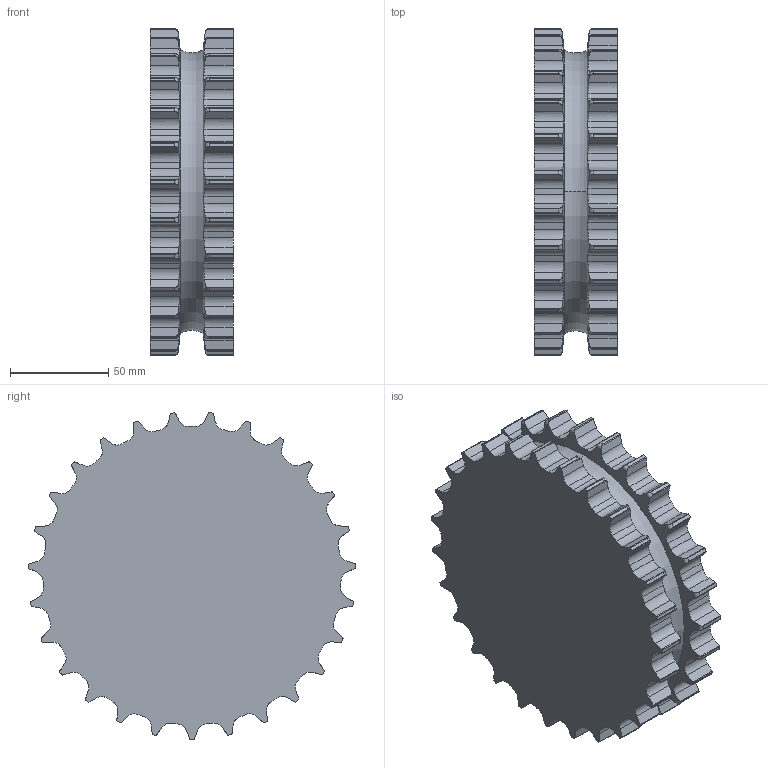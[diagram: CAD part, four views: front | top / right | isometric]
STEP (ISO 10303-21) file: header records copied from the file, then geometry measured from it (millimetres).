
FILE_DESCRIPTION((''),'2;1');
FILE_NAME('30Z27','2012-07-02T',('mth'),(''),'PRO/ENGINEER BY PARAMETRIC TECHNOLOGY CORPORATION, 2012130','PRO/ENGINEER BY PARAMETRIC TECHNOLOGY CORPORATION, 2012130','');
FILE_SCHEMA(('AUTOMOTIVE_DESIGN { 1 0 10303 214 1 1 1 1 }'));
Length unit declared in the file: millimetre
Products named in the file (1): 30Z27
Bounding box: 42.6 x 166.81 x 166.54 mm (x, y, z)
Volume: 774352.6 mm3; surface area: 70721.8 mm2
Topology: 1 solids, 1 shells, 1148 faces, 3341 edges, 2225 vertices
Faces by surface type: plane 762, cylinder 324, torus 56, cone 6
Entity records: 52942 total; most frequent: CARTESIAN_POINT 12590, ORIENTED_EDGE 6678, DIRECTION 5701, PRESENTATION_STYLE_ASSIGNMENT 3340, STYLED_ITEM 3340, CURVE_STYLE 3339, EDGE_CURVE 3339, VECTOR 2409
